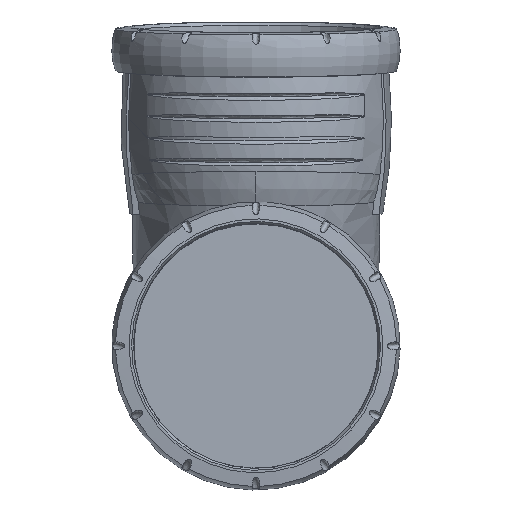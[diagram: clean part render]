
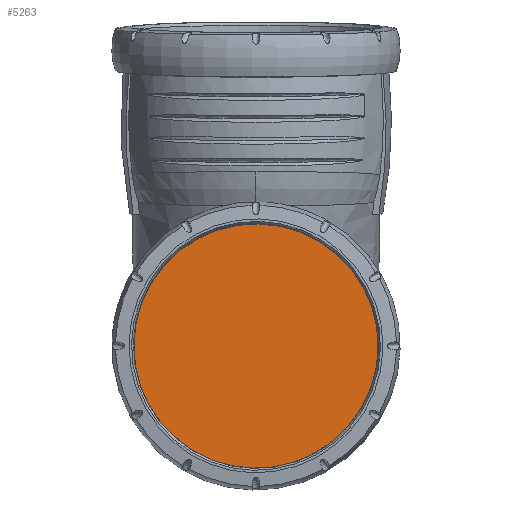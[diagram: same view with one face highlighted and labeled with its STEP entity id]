
A CAD part, top view. The second image highlights one B-rep face of the part: STEP entity #5263.
In plain terms, the highlighted planar face has unit normal (0, 0, 1).
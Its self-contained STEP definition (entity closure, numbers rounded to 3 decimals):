
#627=FACE_OUTER_BOUND('',#963,.T.);
#963=EDGE_LOOP('',(#4595,#4596));
#1585=CIRCLE('',#5601,55.5);
#1586=CIRCLE('',#5603,55.5);
#2282=VERTEX_POINT('',#18218);
#2283=VERTEX_POINT('',#18219);
#3049=EDGE_CURVE('',#2282,#2283,#1585,.T.);
#3052=EDGE_CURVE('',#2283,#2282,#1586,.T.);
#4595=ORIENTED_EDGE('',*,*,#3052,.F.);
#4596=ORIENTED_EDGE('',*,*,#3049,.F.);
#4680=PLANE('',#5606);
#5263=ADVANCED_FACE('',(#627),#4680,.T.);
#5601=AXIS2_PLACEMENT_3D('',#18220,#6356,#6357);
#5603=AXIS2_PLACEMENT_3D('',#18224,#6362,#6363);
#5606=AXIS2_PLACEMENT_3D('',#18305,#6370,#6371);
#6356=DIRECTION('center_axis',(0.,0.,
-1.));
#6357=DIRECTION('ref_axis',(-0.878,-0.479,0.));
#6362=DIRECTION('center_axis',(0.,0.,
-1.));
#6363=DIRECTION('ref_axis',(0.878,0.479,0.));
#6370=DIRECTION('center_axis',(0.,0.,
1.));
#6371=DIRECTION('ref_axis',(0.867,0.498,0.));
#18218=CARTESIAN_POINT('',(-48.706,-26.608,283.2));
#18219=CARTESIAN_POINT('',(48.706,26.608,283.2));
#18220=CARTESIAN_POINT('Origin',(0.001,-0.001,
283.2));
#18224=CARTESIAN_POINT('Origin',(-0.001,0.001,
283.2));
#18305=CARTESIAN_POINT('Origin',(-20.085,-76.708,283.2));
